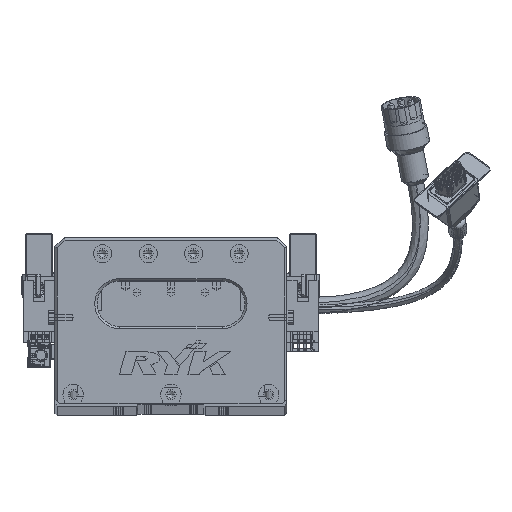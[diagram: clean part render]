
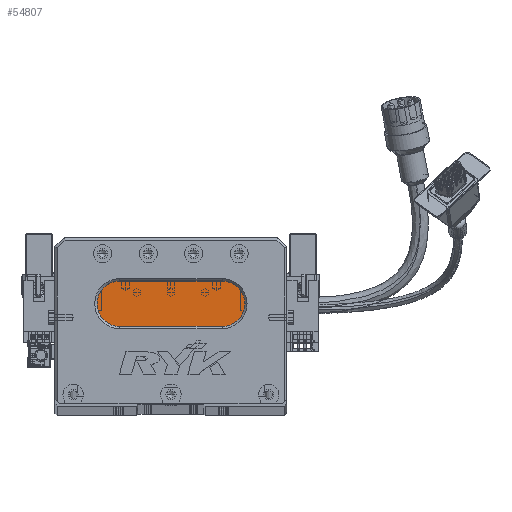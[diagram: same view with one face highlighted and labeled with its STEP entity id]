
A CAD part, top view. The second image highlights one B-rep face of the part: STEP entity #54807.
In plain terms, the highlighted planar face has unit normal (0, 0, 1) as drawn and (0, 0, -1) by its records, which use the part's own axes.
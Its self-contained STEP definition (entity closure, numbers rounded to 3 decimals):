
#724 = AXIS2_PLACEMENT_3D ( 'NONE', #12562, #31728, #50833 ) ;
#5680 = DIRECTION ( 'NONE',  ( 0., 0., -1. ) ) ;
#9827 = CARTESIAN_POINT ( 'NONE',  ( 28.5, 44., 13. ) ) ;
#10939 = VERTEX_POINT ( 'NONE', #46859 ) ;
#12319 = DIRECTION ( 'NONE',  ( -1., 0., 0. ) ) ;
#12562 = CARTESIAN_POINT ( 'NONE',  ( 73.5, 44., 13. ) ) ;
#13916 = EDGE_CURVE ( 'NONE', #80078, #65140, #38480, .T. ) ;
#14274 = CARTESIAN_POINT ( 'NONE',  ( 18.5, 44., 13. ) ) ;
#15115 = LINE ( 'NONE', #32934, #60373 ) ;
#17387 = VERTEX_POINT ( 'NONE', #37618 ) ;
#20145 = AXIS2_PLACEMENT_3D ( 'NONE', #57880, #50579, #12319 ) ;
#25961 = CARTESIAN_POINT ( 'NONE',  ( 28.5, 54., 13. ) ) ;
#30822 = DIRECTION ( 'NONE',  ( -1., 0., 0. ) ) ;
#31728 = DIRECTION ( 'NONE',  ( 0., 0., -1. ) ) ;
#32934 = CARTESIAN_POINT ( 'NONE',  ( 73.5, 54., 13. ) ) ;
#37618 = CARTESIAN_POINT ( 'NONE',  ( 73.5, 34., 13. ) ) ;
#38480 = CIRCLE ( 'NONE', #20145, 10. ) ;
#42956 = DIRECTION ( 'NONE',  ( 0., 0., -1. ) ) ;
#44618 = ORIENTED_EDGE ( 'NONE', *, *, #58663, .T. ) ;
#44974 = CARTESIAN_POINT ( 'NONE',  ( 73.5, 44., 13. ) ) ;
#45012 = EDGE_CURVE ( 'NONE', #65140, #80777, #73351, .T. ) ;
#46097 = DIRECTION ( 'NONE',  ( 1., 0., 0. ) ) ;
#46859 = CARTESIAN_POINT ( 'NONE',  ( 73.5, 54., 13. ) ) ;
#48395 = ORIENTED_EDGE ( 'NONE', *, *, #45012, .T. ) ;
#48614 = DIRECTION ( 'NONE',  ( -1., 0., 0. ) ) ;
#49722 = VECTOR ( 'NONE', #30822, 1000. ) ;
#50579 = DIRECTION ( 'NONE',  ( 0., 0., -1. ) ) ;
#50833 = DIRECTION ( 'NONE',  ( -1., 0., 0. ) ) ;
#53897 = LINE ( 'NONE', #69287, #49722 ) ;
#54490 = EDGE_CURVE ( 'NONE', #80777, #10939, #15115, .T. ) ;
#54807 = ADVANCED_FACE ( 'NONE', ( #68423 ), #82052, .T. ) ;
#55947 = ORIENTED_EDGE ( 'NONE', *, *, #13916, .T. ) ;
#57880 = CARTESIAN_POINT ( 'NONE',  ( 28.5, 44., 13. ) ) ;
#58663 = EDGE_CURVE ( 'NONE', #17387, #80078, #53897, .T. ) ;
#59557 = AXIS2_PLACEMENT_3D ( 'NONE', #44974, #5680, #63348 ) ;
#60373 = VECTOR ( 'NONE', #46097, 1000. ) ;
#61418 = EDGE_CURVE ( 'NONE', #10939, #17387, #83306, .T. ) ;
#63348 = DIRECTION ( 'NONE',  ( -1., 0., 0. ) ) ;
#65140 = VERTEX_POINT ( 'NONE', #14274 ) ;
#68423 = FACE_OUTER_BOUND ( 'NONE', #81337, .T. ) ;
#69287 = CARTESIAN_POINT ( 'NONE',  ( 73.5, 34., 13. ) ) ;
#70733 = CARTESIAN_POINT ( 'NONE',  ( 28.5, 34., 13. ) ) ;
#72698 = ORIENTED_EDGE ( 'NONE', *, *, #61418, .T. ) ;
#73351 = CIRCLE ( 'NONE', #77167, 10. ) ;
#74634 = ORIENTED_EDGE ( 'NONE', *, *, #54490, .T. ) ;
#77167 = AXIS2_PLACEMENT_3D ( 'NONE', #9827, #42956, #48614 ) ;
#80078 = VERTEX_POINT ( 'NONE', #70733 ) ;
#80777 = VERTEX_POINT ( 'NONE', #25961 ) ;
#81337 = EDGE_LOOP ( 'NONE', ( #72698, #44618, #55947, #48395, #74634 ) ) ;
#82052 = PLANE ( 'NONE',  #724 ) ;
#83306 = CIRCLE ( 'NONE', #59557, 10. ) ;
